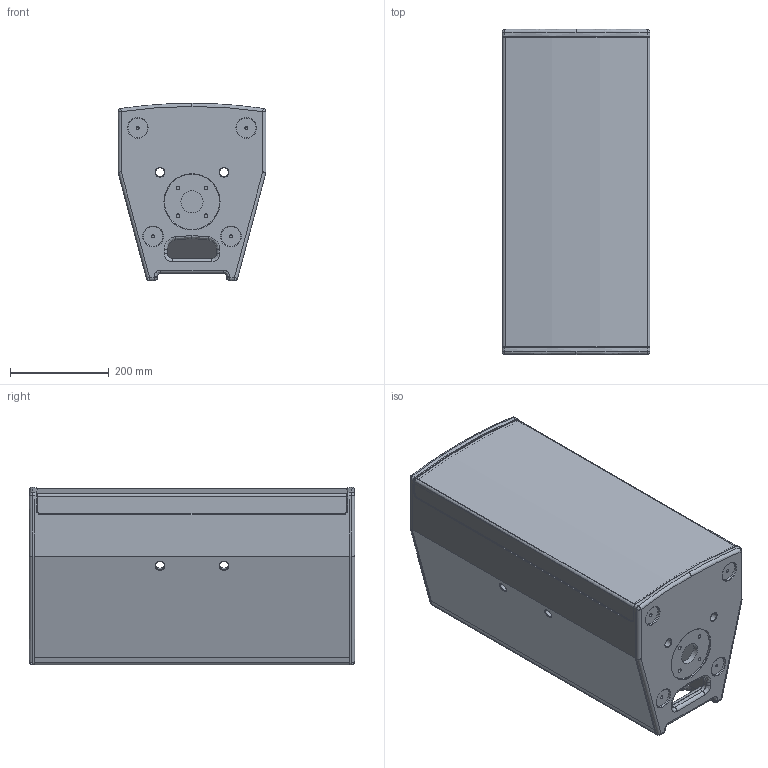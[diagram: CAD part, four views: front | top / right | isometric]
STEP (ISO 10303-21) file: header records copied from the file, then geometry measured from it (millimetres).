
FILE_DESCRIPTION (( 'STEP AP203' ), '1' );
FILE_NAME ('SEEBURG_K20.STEP', '2018-11-19T09:13:35', ( 'Michl' ), ( '' ), 'SwSTEP 2.0', 'SolidWorks 2009', '' );
FILE_SCHEMA (( 'CONFIG_CONTROL_DESIGN' ));
Length unit declared in the file: millimetre
Products named in the file (11): SEEBURG_K20; K20 Boden; K20 Deckel; K20 Seite Kurz; K20 Seite Lang; K20 Rückwand; K20 Rückwandleiste; K20 Griffverkleidung; K20 Gittermond; Gitter-einfach-1; K20-Anschlußfeld
Assembly tree (15 placements, depth 2):
  SEEBURG_K20
    K20 Seite Kurz  x2
    K20 Griffverkleidung  x2
    K20 Boden
    K20 Deckel
    K20 Rückwandleiste  x2
    K20-Anschlußfeld
    K20 Rückwand
    Gitter-einfach-1
    K20 Seite Lang  x2
    K20 Gittermond  x2
Bounding box: 300 x 660 x 360 mm (x, y, z)
Volume: 10328816.8 mm3; surface area: 2338349.5 mm2
Topology: 15 solids, 15 shells, 486 faces, 1272 edges, 810 vertices
Faces by surface type: plane 228, cylinder 179, cone 36, bspline 31, sphere 12
Entity records: 13957 total; most frequent: CARTESIAN_POINT 2733, DIRECTION 2129, ORIENTED_EDGE 2068, EDGE_CURVE 1034, AXIS2_PLACEMENT_3D 758, VERTEX_POINT 658, LINE 613, VECTOR 613
